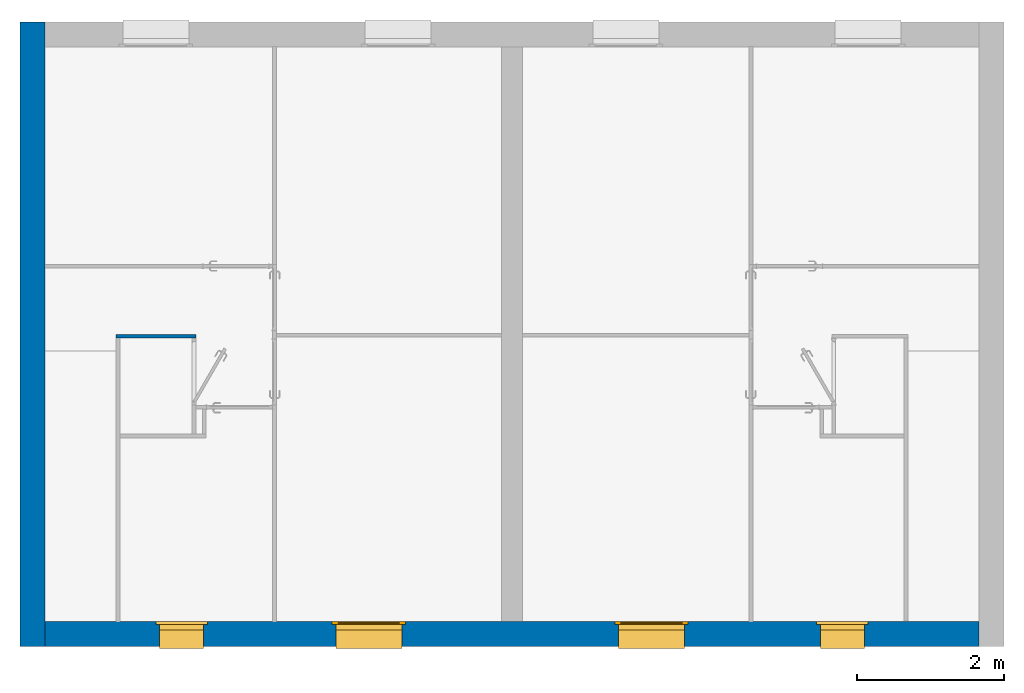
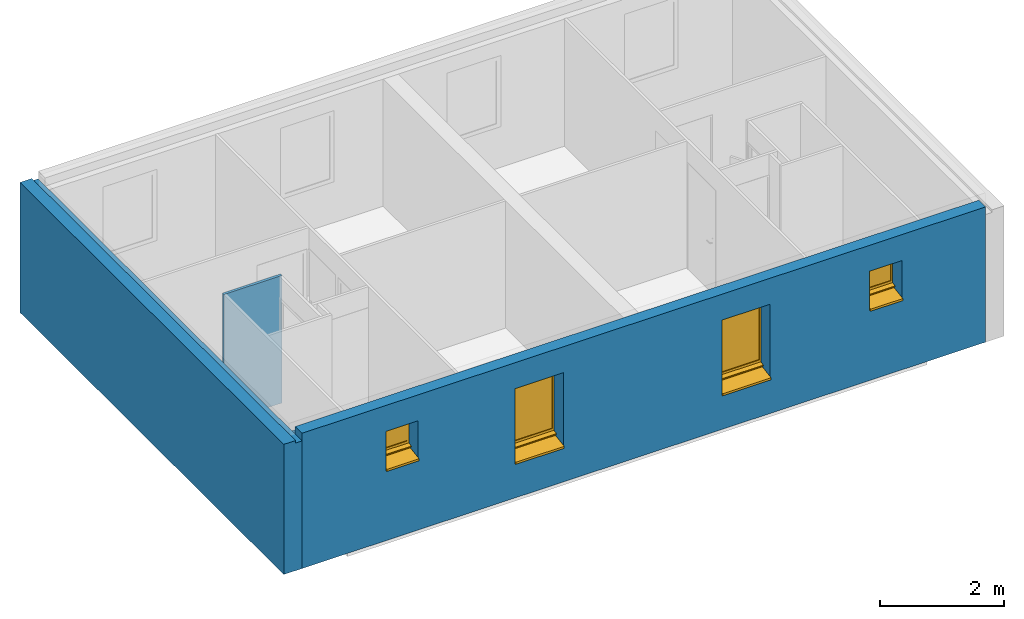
# One storey, part 3 of 13: 4 windows, 3 walls, 4 openings.
"""IFC2X3 building model written with IfcOpenShell, lengths in metres."""

from ifc_helpers import new_model, entity, si_unit, converted_unit, derived_unit, direction, frame, frame_2d, origin, origin_2d_with_axis, place, context, subcontext, project, spatial, polyline, rectangle, outline, extrude, clip, bounded_halfspace, faceted_brep, source, transform, mapped, material, material_list, layer, layer_set, layer_usage, type_object, type_shapes, element, fill, save


model = new_model("IFC2X3")

# Units and contexts
model_context = context("Model", 3, precision=1e-05, world=origin(), true_north=direction((6.12303176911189e-17, 1.0)))
body_context = subcontext(model_context, "Body", "Model", "MODEL_VIEW")
ifc_project = project(units=[si_unit("LENGTHUNIT", "METRE"), si_unit("AREAUNIT", "SQUARE_METRE"), si_unit("VOLUMEUNIT", "CUBIC_METRE"), converted_unit("PLANEANGLEUNIT", "DEGREE", entity("IfcRatioMeasure", 0.0174532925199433), si_unit("PLANEANGLEUNIT", "RADIAN"), dimensions=[0, 0, 0, 0, 0, 0, 0]), si_unit("MASSUNIT", "GRAM", prefix="KILO"), si_unit("TIMEUNIT", "SECOND"), si_unit("FREQUENCYUNIT", "HERTZ"), si_unit("THERMODYNAMICTEMPERATUREUNIT", "DEGREE_CELSIUS"), derived_unit("THERMALTRANSMITTANCEUNIT", [(si_unit("MASSUNIT", "GRAM", prefix="KILO"), 1), (si_unit("THERMODYNAMICTEMPERATUREUNIT", "KELVIN"), -1), (si_unit("TIMEUNIT", "SECOND"), -3)]), derived_unit("VOLUMETRICFLOWRATEUNIT", [(si_unit("LENGTHUNIT", "METRE"), 3), (si_unit("TIMEUNIT", "SECOND"), -1)]), si_unit("ELECTRICCURRENTUNIT", "AMPERE"), si_unit("ELECTRICVOLTAGEUNIT", "VOLT"), si_unit("POWERUNIT", "WATT"), si_unit("FORCEUNIT", "NEWTON", prefix="KILO"), si_unit("ILLUMINANCEUNIT", "LUX"), si_unit("LUMINOUSFLUXUNIT", "LUMEN"), si_unit("LUMINOUSINTENSITYUNIT", "CANDELA"), derived_unit("USERDEFINED", [(si_unit("MASSUNIT", "GRAM", prefix="KILO"), -1), (si_unit("LENGTHUNIT", "METRE"), -2), (si_unit("TIMEUNIT", "SECOND"), 3), (si_unit("LUMINOUSFLUXUNIT", "LUMEN"), 1)]), derived_unit("LINEARVELOCITYUNIT", [(si_unit("LENGTHUNIT", "METRE"), 1), (si_unit("TIMEUNIT", "SECOND"), -1)]), si_unit("PRESSUREUNIT", "PASCAL"), derived_unit("USERDEFINED", [(si_unit("LENGTHUNIT", "METRE"), -2), (si_unit("MASSUNIT", "GRAM", prefix="KILO"), 1), (si_unit("TIMEUNIT", "SECOND"), -2)])], contexts=[model_context])

# Site, building, storey
site_placement = place(None, origin())
site = spatial("IfcSite", under=ifc_project, at=site_placement, Name="Surface", CompositionType="ELEMENT")
building_placement = place(site_placement, origin())
building = spatial("IfcBuilding", under=site, at=building_placement, CompositionType="ELEMENT")
storey_placement = place(building_placement, frame((0.0, 0.0, 2.74)))
storey = spatial("IfcBuildingStorey", under=building, at=storey_placement, Name="Plan étage", CompositionType="ELEMENT", Elevation=2.74)

# Walls
ifc_material_1 = material(Name="Maçonnerie - Isolant(1)")
ifc_layer_1 = layer(ifc_material_1, 0.05)
ifc_layer_set_1 = layer_set([ifc_layer_1], Name="Mur de base:Int. plâtre 50 mm")
ifc_layer_usage_1 = layer_usage(ifc_layer_set_1, "AXIS2", "NEGATIVE", 0.025)
wall_type_1 = type_object("IfcWallType", Name="Mur de base:Int. plâtre 50 mm", PredefinedType="STANDARD", material=ifc_layer_set_1)
wall_1_placement = place(storey_placement, frame((-10.3260888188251, 1.40925578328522, -0.00999999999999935)))
element("IfcWallStandardCase", 1, at=wall_1_placement, inside=storey, type_object=wall_type_1, material=ifc_layer_usage_1, Name="Mur de base:Int. plâtre 50 mm", ObjectType="Mur de base:Int. plâtre 50 mm", context=body_context, shape_type="SweptSolid", body=[
    extrude(rectangle(XDim=1.08499999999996, YDim=0.05, at=frame_2d((0.542499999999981, 0.0), x_axis=(-1.0, 0.0))), origin(), (0.0, 0.0, 1.0), 2.51),
])
ifc_material_2 = material(Name="Maçonnerie - Enduit")
ifc_layer_2 = layer(ifc_material_2, 0.02)
ifc_material_3 = material(Name="Maçonnerie - Parpaing")
ifc_layer_3 = layer(ifc_material_3, 0.2)
ifc_material_4 = material(Name="Maçonnerie - Isolant")
ifc_layer_4 = layer(ifc_material_4, 0.11)
ifc_material_5 = material(Name="Maçonnerie - Isolant 1")
ifc_layer_5 = layer(ifc_material_5, 0.01)
ifc_layer_set_2 = layer_set([ifc_layer_2, ifc_layer_3, ifc_layer_4, ifc_layer_5], Name="Mur de base:Mur de base Ext. Parpaing 20 + Isolant 12")
ifc_layer_usage_2 = layer_usage(ifc_layer_set_2, "AXIS2", "NEGATIVE", 0.17)
wall_type_2 = type_object("IfcWallType", Name="Mur de base:Mur de base Ext. Parpaing 20 + Isolant 12", PredefinedType="STANDARD", material=ifc_layer_set_2)
wall_2_placement = place(storey_placement, frame((-11.4660888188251, -2.81574421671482, 0.0), z_axis=(0.0, 0.0, 1.0), x_axis=(0.0, 1.0, 0.0)))
element("IfcWallStandardCase", 2, at=wall_2_placement, inside=storey, type_object=wall_type_2, material=ifc_layer_usage_2, Name="Mur de base:Mur de base Ext. Parpaing 20 + Isolant 12", ObjectType="Mur de base:Mur de base Ext. Parpaing 20 + Isolant 12", context=body_context, shape_type="Clipping", body=[
    clip(extrude(rectangle(XDim=8.50000000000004, YDim=0.340000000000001, at=frame_2d((4.25000000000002, 0.0), x_axis=(-1.0, 0.0))), origin(), (0.0, 0.0, 1.0), 2.56), bounded_halfspace(frame((0.0, -0.17, 2.51), z_axis=(0.0, 0.0, 1.0), x_axis=(0.0, -1.0, 0.0)), False, frame((0.0, -0.17, 2.51)), polyline([(0.0, 0.0), (8.50000000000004, 0.0), (8.50000000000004, 0.120000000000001), (0.0, 0.120000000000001), (0.0, 0.0)]))),
])

# Wall, openings, windows
ifc_layer_usage_3 = layer_usage(ifc_layer_set_2, "AXIS2", "NEGATIVE", 0.17)
wall_3_placement = place(storey_placement, frame((1.42391118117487, -2.64574421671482, 0.0), z_axis=(0.0, 0.0, 1.0), x_axis=(-1.0, 0.0, 0.0)))
wall_3 = element("IfcWallStandardCase", 3, at=wall_3_placement, inside=storey, type_object=wall_type_2, material=ifc_layer_usage_3, Name="Mur de base:Mur de base Ext. Parpaing 20 + Isolant 12", ObjectType="Mur de base:Mur de base Ext. Parpaing 20 + Isolant 12", context=body_context, shape_type="Clipping", body=[
    clip(extrude(rectangle(XDim=12.72, YDim=0.34, at=frame_2d((6.35999999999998, 0.0), x_axis=(-1.0, 0.0))), origin(), (0.0, 0.0, 1.0), 2.66), bounded_halfspace(frame((0.0, -0.17, 2.5), z_axis=(0.0, 0.0, 1.0), x_axis=(-1.0, 0.0, 0.0)), False, frame((0.0, -0.17, 2.5)), polyline([(0.0, 0.0), (6.22, 0.0), (6.5, 0.0), (12.72, 0.0), (12.72, 0.12), (0.0, 0.12), (0.0, 0.0)]))),
])
opening_1_placement = place(wall_3_placement, frame((2.20999999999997, 0.689999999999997, 1.38057636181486), z_axis=(0.0, 0.0, 1.0), x_axis=(-1.0, 0.0, 0.0)))
opening_1 = element("IfcOpeningElement", 4, at=opening_1_placement, cuts=wall_3, Name="Mur de base:Mur de base Ext. Parpaing 20 + Isolant 12", ObjectType="Opening", context=body_context, shape_type="Brep", body=[
    faceted_brep([(0.0499999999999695, 1.35, 0.769423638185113), (0.649999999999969, 1.35, 0.769423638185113), (0.649999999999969, 1.35, 0.119423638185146), (0.0499999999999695, 1.35, 0.119423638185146), (0.0499999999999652, 0.0, 0.769423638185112), (0.0499999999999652, 0.0, 0.0), (0.649999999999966, 0.0, 0.0), (0.649999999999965, 0.0, 0.769423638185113), (0.0499999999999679, 0.859999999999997, 0.769423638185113), (0.649999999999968, 0.859999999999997, 0.769423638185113), (0.649999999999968, 0.859999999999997, 0.119423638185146), (0.699999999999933, 0.859999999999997, 0.119423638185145), (0.699999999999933, 0.819999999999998, 0.119423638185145), (0.649999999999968, 0.819999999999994, 0.119423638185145), (0.0499999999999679, 0.819999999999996, 0.119423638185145), (0.0, 0.819999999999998, 0.119423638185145), (0.0, 0.859999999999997, 0.119423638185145), (0.0499999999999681, 0.859999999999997, 0.119423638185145), (0.0499999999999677, 0.769999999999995, 0.0), (0.649999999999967, 0.769999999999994, 0.0), (0.0499999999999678, 0.819999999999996, 0.0415343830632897), (0.649999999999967, 0.819999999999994, 0.0415343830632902), (0.0, 0.859999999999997, 0.81942363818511), (0.699999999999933, 0.859999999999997, 0.81942363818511), (0.699999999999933, 0.819999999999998, 0.81942363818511), (0.0, 0.819999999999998, 0.81942363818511), (0.0499999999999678, 0.819999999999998, 0.769423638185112), (0.649999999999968, 0.819999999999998, 0.769423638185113)], [[[0, 1, 2, 3]], [[4, 5, 6, 7]], [[0, 8, 9, 1]], [[1, 9, 10, 2]], [[2, 10, 11, 12, 13, 14, 15, 16, 17, 3]], [[3, 17, 8, 0]], [[6, 5, 18, 19]], [[19, 18, 20, 21]], [[21, 20, 14, 13]], [[11, 10, 9, 8, 17, 16, 22, 23]], [[11, 23, 24, 12]], [[24, 25, 15, 14, 26, 27, 13, 12]], [[22, 25, 24, 23]], [[16, 15, 25, 22]], [[5, 4, 26, 14, 20, 18]], [[13, 27, 7, 6, 19, 21]], [[7, 27, 26, 4]]]),
])
opening_2_placement = place(wall_3_placement, frame((4.95999999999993, 0.689999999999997, 0.680576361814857), z_axis=(0.0, 0.0, 1.0), x_axis=(-1.0, 0.0, 0.0)))
opening_2 = element("IfcOpeningElement", 5, at=opening_2_placement, cuts=wall_3, Name="Mur de base:Mur de base Ext. Parpaing 20 + Isolant 12", ObjectType="Opening", context=body_context, shape_type="Brep", body=[
    faceted_brep([(0.049999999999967, 1.35, 1.46942363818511), (0.949999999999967, 1.35, 1.46942363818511), (0.949999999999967, 1.35, 0.119423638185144), (0.049999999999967, 1.35, 0.119423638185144), (0.0499999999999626, 0.0, 1.46942363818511), (0.0499999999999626, 0.0, 0.0), (0.949999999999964, 0.0, 0.0), (0.949999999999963, 0.0, 1.46942363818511), (0.0499999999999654, 0.859999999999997, 1.46942363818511), (0.949999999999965, 0.859999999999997, 1.46942363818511), (0.949999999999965, 0.859999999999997, 0.119423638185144), (1.0, 0.859999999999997, 0.119423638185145), (1.0, 0.819999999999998, 0.119423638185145), (0.949999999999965, 0.819999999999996, 0.119423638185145), (0.0499999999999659, 0.819999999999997, 0.119423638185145), (0.0, 0.819999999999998, 0.119423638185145), (0.0, 0.859999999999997, 0.119423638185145), (0.0499999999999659, 0.859999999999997, 0.119423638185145), (0.0499999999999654, 0.769999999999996, 0.0), (0.949999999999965, 0.769999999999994, 0.0), (0.0499999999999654, 0.819999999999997, 0.0415343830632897), (0.949999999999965, 0.819999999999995, 0.0415343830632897), (0.0, 0.859999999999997, 1.51942363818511), (1.0, 0.859999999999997, 1.51942363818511), (1.0, 0.819999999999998, 1.51942363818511), (0.0, 0.819999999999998, 1.51942363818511), (0.0499999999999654, 0.819999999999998, 1.46942363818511), (0.949999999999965, 0.819999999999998, 1.46942363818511)], [[[0, 1, 2, 3]], [[4, 5, 6, 7]], [[0, 8, 9, 1]], [[1, 9, 10, 2]], [[2, 10, 11, 12, 13, 14, 15, 16, 17, 3]], [[3, 17, 8, 0]], [[6, 5, 18, 19]], [[19, 18, 20, 21]], [[21, 20, 14, 13]], [[11, 10, 9, 8, 17, 16, 22, 23]], [[11, 23, 24, 12]], [[24, 25, 15, 14, 26, 27, 13, 12]], [[22, 25, 24, 23]], [[16, 15, 25, 22]], [[5, 4, 26, 14, 20, 18]], [[13, 27, 7, 6, 19, 21]], [[7, 27, 26, 4]]]),
])
opening_3_placement = place(wall_3_placement, frame((8.80999999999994, 0.689999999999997, 0.680576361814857), z_axis=(0.0, 0.0, 1.0), x_axis=(-1.0, 0.0, 0.0)))
opening_3 = element("IfcOpeningElement", 6, at=opening_3_placement, cuts=wall_3, Name="Mur de base:Mur de base Ext. Parpaing 20 + Isolant 12", ObjectType="Opening", context=body_context, shape_type="Brep", body=[
    faceted_brep([(0.0499999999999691, 1.35, 1.46942363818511), (0.949999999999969, 1.35, 1.46942363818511), (0.949999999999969, 1.35, 0.119423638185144), (0.0499999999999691, 1.35, 0.119423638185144), (0.0499999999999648, 0.0, 1.46942363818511), (0.0499999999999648, 0.0, 0.0), (0.949999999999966, 0.0, 0.0), (0.949999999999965, 0.0, 1.46942363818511), (0.0499999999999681, 0.859999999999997, 1.46942363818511), (0.949999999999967, 0.859999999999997, 1.46942363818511), (0.949999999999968, 0.859999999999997, 0.119423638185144), (1.0, 0.859999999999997, 0.119423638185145), (1.0, 0.819999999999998, 0.119423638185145), (0.949999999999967, 0.819999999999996, 0.119423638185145), (0.0499999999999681, 0.819999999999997, 0.119423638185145), (0.0, 0.819999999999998, 0.119423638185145), (0.0, 0.859999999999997, 0.119423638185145), (0.0499999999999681, 0.859999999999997, 0.119423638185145), (0.049999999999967, 0.769999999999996, 0.0), (0.949999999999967, 0.769999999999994, 0.0), (0.049999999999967, 0.819999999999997, 0.0415343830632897), (0.949999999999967, 0.819999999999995, 0.0415343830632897), (0.0, 0.859999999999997, 1.51942363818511), (1.0, 0.859999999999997, 1.51942363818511), (1.0, 0.819999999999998, 1.51942363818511), (0.0, 0.819999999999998, 1.51942363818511), (0.049999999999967, 0.819999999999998, 1.46942363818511), (0.949999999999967, 0.819999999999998, 1.46942363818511)], [[[0, 1, 2, 3]], [[4, 5, 6, 7]], [[0, 8, 9, 1]], [[1, 9, 10, 2]], [[2, 10, 11, 12, 13, 14, 15, 16, 17, 3]], [[3, 17, 8, 0]], [[6, 5, 18, 19]], [[19, 18, 20, 21]], [[21, 20, 14, 13]], [[11, 10, 9, 8, 17, 16, 22, 23]], [[11, 23, 24, 12]], [[24, 25, 15, 14, 26, 27, 13, 12]], [[22, 25, 24, 23]], [[16, 15, 25, 22]], [[5, 4, 26, 14, 20, 18]], [[13, 27, 7, 6, 19, 21]], [[7, 27, 26, 4]]]),
])
opening_4_placement = place(wall_3_placement, frame((11.2099999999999, 0.689999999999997, 1.38057636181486), z_axis=(0.0, 0.0, 1.0), x_axis=(-1.0, 0.0, 0.0)))
opening_4 = element("IfcOpeningElement", 7, at=opening_4_placement, cuts=wall_3, Name="Mur de base:Mur de base Ext. Parpaing 20 + Isolant 12", ObjectType="Opening", context=body_context, shape_type="Brep", body=[
    faceted_brep([(0.0499999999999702, 1.35, 0.769423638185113), (0.64999999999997, 1.35, 0.769423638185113), (0.64999999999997, 1.35, 0.119423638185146), (0.0499999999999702, 1.35, 0.119423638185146), (0.0499999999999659, 0.0, 0.769423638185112), (0.0499999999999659, 0.0, 0.0), (0.649999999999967, 0.0, 0.0), (0.649999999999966, 0.0, 0.769423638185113), (0.0499999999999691, 0.859999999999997, 0.769423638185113), (0.649999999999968, 0.859999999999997, 0.769423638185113), (0.649999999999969, 0.859999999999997, 0.119423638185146), (0.699999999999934, 0.859999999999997, 0.119423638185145), (0.699999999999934, 0.819999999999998, 0.119423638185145), (0.649999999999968, 0.819999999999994, 0.119423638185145), (0.0499999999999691, 0.819999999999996, 0.119423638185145), (0.0, 0.819999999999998, 0.119423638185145), (0.0, 0.859999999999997, 0.119423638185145), (0.0499999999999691, 0.859999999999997, 0.119423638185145), (0.0499999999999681, 0.769999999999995, 0.0), (0.649999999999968, 0.769999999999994, 0.0), (0.0499999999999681, 0.819999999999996, 0.0415343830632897), (0.649999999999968, 0.819999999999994, 0.0415343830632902), (0.0, 0.859999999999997, 0.81942363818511), (0.699999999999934, 0.859999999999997, 0.81942363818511), (0.699999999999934, 0.819999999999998, 0.81942363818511), (0.0, 0.819999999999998, 0.81942363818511), (0.0499999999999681, 0.819999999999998, 0.769423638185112), (0.649999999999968, 0.819999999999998, 0.769423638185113)], [[[0, 1, 2, 3]], [[4, 5, 6, 7]], [[0, 8, 9, 1]], [[1, 9, 10, 2]], [[2, 10, 11, 12, 13, 14, 15, 16, 17, 3]], [[3, 17, 8, 0]], [[6, 5, 18, 19]], [[19, 18, 20, 21]], [[21, 20, 14, 13]], [[11, 10, 9, 8, 17, 16, 22, 23]], [[11, 23, 24, 12]], [[24, 25, 15, 14, 26, 27, 13, 12]], [[22, 25, 24, 23]], [[16, 15, 25, 22]], [[5, 4, 26, 14, 20, 18]], [[13, 27, 7, 6, 19, 21]], [[7, 27, 26, 4]]]),
])
ifc_material_6 = material(Name="Appui")
ifc_material_7 = material(Name="Huisserie")
ifc_material_8 = material(Name="Verre")
ifc_material_list_1 = material_list([ifc_material_6, ifc_material_7, ifc_material_8])
ifc_material_list_2 = material_list([ifc_material_6, ifc_material_7, ifc_material_8])
window_style_1 = type_object("IfcWindowStyle", Name="60x65", ConstructionType="NOTDEFINED", OperationType="NOTDEFINED", ParameterTakesPrecedence=False, Sizeable=False, material=ifc_material_list_2)
shared_shape_1 = source(origin(), body_context, "Body", "SweptSolid", [
    extrude(outline(polyline([(0.0657142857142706, -0.0614771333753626), (0.115714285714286, -0.0614771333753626), (0.115714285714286, 0.0164121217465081), (0.0657142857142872, 0.0579465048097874), (-0.2142857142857, 0.0579465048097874), (-0.2142857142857, 0.0182470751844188), (0.0657142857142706, -0.0275979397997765), (0.0657142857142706, -0.0614771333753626)])), frame((0.0499999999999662, -0.704285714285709, 0.0579465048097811), z_axis=(1.0, 0.0, 0.0), x_axis=(0.0, -1.0, 0.0)), (0.0, 0.0, 1.0), 0.6),
    extrude(outline(polyline([(-0.0381047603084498, -0.0131276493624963), (0.0436772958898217, -0.0131276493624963), (0.0363421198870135, 0.0214324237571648), (-0.0419146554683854, 0.00482287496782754), (-0.0381047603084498, -0.0131276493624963)])), frame((0.0499999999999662, -0.779999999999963, 0.132843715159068), z_axis=(1.0, 0.0, 0.0), x_axis=(0.0, -0.978209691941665, 0.207619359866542)), (0.0, 0.0, 1.0), 0.6),
    extrude(outline(polyline([(-0.349971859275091, -0.349999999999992), (0.349971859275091, -0.349999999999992), (0.349971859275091, 0.349999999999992), (-0.349971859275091, 0.349999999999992), (-0.349971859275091, -0.349999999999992)]), holes=[polyline([(0.26997185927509, -0.269999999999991), (-0.26997185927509, -0.269999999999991), (-0.269971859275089, 0.269999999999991), (0.26997185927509, 0.26999999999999), (0.26997185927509, -0.269999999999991)])]), frame((0.349999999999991, -0.859999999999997, 0.469395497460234), z_axis=(0.0, 1.0, 0.0), x_axis=(0.0, 0.0, 1.0)), (0.0, 0.0, 1.0), 0.0399999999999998),
    extrude(rectangle(XDim=0.0100226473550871, YDim=0.539999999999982, at=frame_2d((6.76542155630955e-17, 0.0), x_axis=(1.0, 0.0))), frame((0.349999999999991, -0.839989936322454, 0.199423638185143), z_axis=(0.0, 0.0, 1.0), x_axis=(0.0, 1.0, 0.0)), (0.0, 0.0, 1.0), 0.539943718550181),
])
type_shapes(window_style_1, [shared_shape_1])
window_1_placement = place(opening_1_placement, frame((0.699999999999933, 0.0, 0.0), z_axis=(0.0, 0.0, 1.0), x_axis=(-1.0, 0.0, 0.0)))
window_1 = element("IfcWindow", 8, at=window_1_placement, inside=storey, type_object=window_style_1, material=ifc_material_list_1, Name="FR_1  Vantail Appui Béton:60x65", ObjectType="60x65", OverallHeight=0.959972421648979, OverallWidth=0.699999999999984, context=body_context, shape_type="MappedRepresentation", body=[
    mapped(shared_shape_1, transform((0.0, 0.0, 0.0), scale=1.0)),
])
fill(opening_1, window_1)
ifc_material_list_3 = material_list([ifc_material_6, ifc_material_7, ifc_material_8])
window_2_placement = place(opening_4_placement, frame((0.699999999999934, 0.0, 0.0), z_axis=(0.0, 0.0, 1.0), x_axis=(-1.0, 0.0, 0.0)))
window_2 = element("IfcWindow", 9, at=window_2_placement, inside=storey, type_object=window_style_1, material=ifc_material_list_3, Name="FR_1  Vantail Appui Béton:60x65", ObjectType="60x65", OverallHeight=0.959972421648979, OverallWidth=0.699999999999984, context=body_context, shape_type="MappedRepresentation", body=[
    mapped(shared_shape_1, transform((0.0, 0.0, 0.0), scale=1.0)),
])
fill(opening_4, window_2)
ifc_material_list_4 = material_list([ifc_material_6, ifc_material_7, ifc_material_8])
ifc_material_list_5 = material_list([ifc_material_6, ifc_material_7, ifc_material_8])
window_style_2 = type_object("IfcWindowStyle", Name="90x135", ConstructionType="NOTDEFINED", OperationType="NOTDEFINED", ParameterTakesPrecedence=False, Sizeable=False, material=ifc_material_list_5)
shared_shape_2 = source(origin(), body_context, "Body", "SweptSolid", [
    extrude(outline(polyline([(0.0657142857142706, -0.0614771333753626), (0.115714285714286, -0.0614771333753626), (0.115714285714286, 0.0164121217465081), (0.0657142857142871, 0.0579465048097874), (-0.2142857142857, 0.0579465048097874), (-0.2142857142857, 0.0182470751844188), (0.0657142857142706, -0.0275979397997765), (0.0657142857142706, -0.0614771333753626)])), frame((0.0499999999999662, -0.704285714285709, 0.0579465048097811), z_axis=(1.0, 0.0, 0.0), x_axis=(0.0, -1.0, 0.0)), (0.0, 0.0, 1.0), 0.9),
    extrude(outline(polyline([(-0.0381047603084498, -0.0131276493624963), (0.0436772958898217, -0.0131276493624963), (0.0363421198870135, 0.0214324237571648), (-0.0419146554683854, 0.00482287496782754), (-0.0381047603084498, -0.0131276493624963)])), frame((0.0499999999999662, -0.779999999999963, 0.132843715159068), z_axis=(1.0, 0.0, 0.0), x_axis=(0.0, -0.978209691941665, 0.207619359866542)), (0.0, 0.0, 1.0), 0.899999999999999),
    extrude(outline(polyline([(-0.699971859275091, -0.499999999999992), (0.69997185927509, -0.499999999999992), (0.69997185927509, 0.499999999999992), (-0.699971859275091, 0.499999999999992), (-0.699971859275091, -0.499999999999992)]), holes=[polyline([(0.619971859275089, -0.419999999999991), (-0.61997185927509, -0.419999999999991), (-0.61997185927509, 0.419999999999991), (0.619971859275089, 0.419999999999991), (0.619971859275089, -0.419999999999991)])]), frame((0.499999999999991, -0.859999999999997, 0.819395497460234), z_axis=(0.0, 1.0, 0.0), x_axis=(0.0, 0.0, 1.0)), (0.0, 0.0, 1.0), 0.0399999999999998),
    extrude(rectangle(XDim=0.0100226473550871, YDim=0.839999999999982, at=origin_2d_with_axis()), frame((0.499999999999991, -0.839989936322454, 0.199423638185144), z_axis=(0.0, 0.0, 1.0), x_axis=(0.0, 1.0, 0.0)), (0.0, 0.0, 1.0), 1.23994371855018),
])
type_shapes(window_style_2, [shared_shape_2])
window_3_placement = place(opening_2_placement, frame((1.0, 0.0, 0.0), z_axis=(0.0, 0.0, 1.0), x_axis=(-1.0, 0.0, 0.0)))
window_3 = element("IfcWindow", 10, at=window_3_placement, inside=storey, type_object=window_style_2, material=ifc_material_list_4, Name="FR_1  Vantail Appui Béton:90x135", ObjectType="90x135", OverallHeight=1.65997242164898, OverallWidth=0.999999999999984, context=body_context, shape_type="MappedRepresentation", body=[
    mapped(shared_shape_2, transform((0.0, 0.0, 0.0), scale=1.0)),
])
fill(opening_2, window_3)
ifc_material_list_6 = material_list([ifc_material_6, ifc_material_7, ifc_material_8])
window_4_placement = place(opening_3_placement, frame((1.0, 0.0, 0.0), z_axis=(0.0, 0.0, 1.0), x_axis=(-1.0, 0.0, 0.0)))
window_4 = element("IfcWindow", 11, at=window_4_placement, inside=storey, type_object=window_style_2, material=ifc_material_list_6, Name="FR_1  Vantail Appui Béton:90x135", ObjectType="90x135", OverallHeight=1.65997242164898, OverallWidth=0.999999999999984, context=body_context, shape_type="MappedRepresentation", body=[
    mapped(shared_shape_2, transform((0.0, 0.0, 0.0), scale=1.0)),
])
fill(opening_3, window_4)

save(model, "model.ifc")
